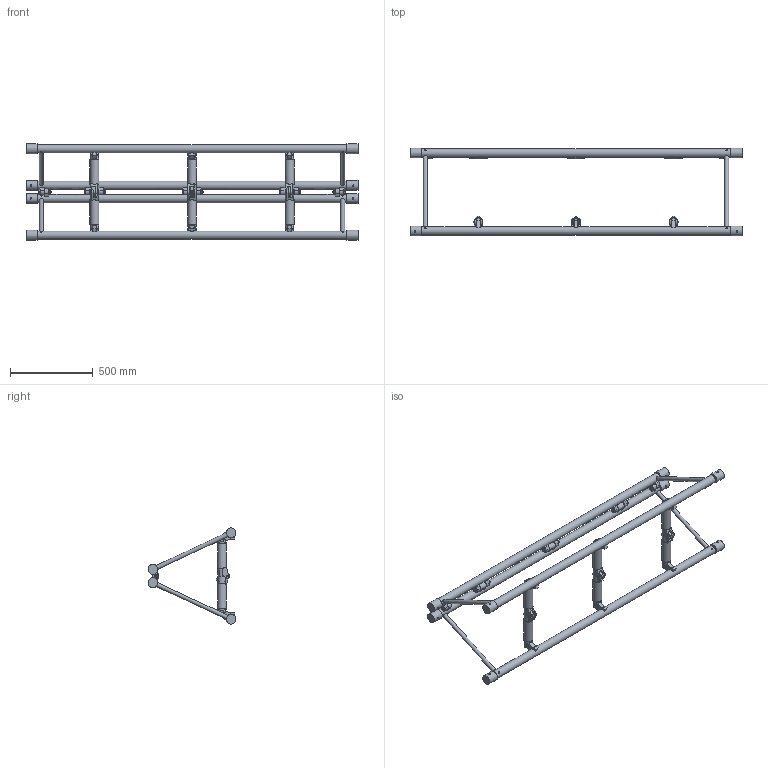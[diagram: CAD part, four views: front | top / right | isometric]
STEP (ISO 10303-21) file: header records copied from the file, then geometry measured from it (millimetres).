
FILE_DESCRIPTION(/* description */ (''),/* implementation_level */ '2;1');
FILE_NAME(/* name */ 'M:\Symbolen_NIEUW\STP\52-er truss\S52F\S52F-L200_111110087.stp',/* time_stamp */ '2017-11-10T14:31:29+01:00',/* author */ ('Kees'),/* organization */ (''),/* preprocessor_version */ 'ST-DEVELOPER v16.13',/* originating_system */ 'Autodesk Inventor 2018',/* authorisation */ '');
FILE_SCHEMA (('AUTOMOTIVE_DESIGN { 1 0 10303 214 3 1 1 }'));
Length unit declared in the file: millimetre
Products named in the file (1): 160001654
Bounding box: 2000 x 528.69 x 578.8 mm (x, y, z)
Volume: 20724168.3 mm3; surface area: 1965685.7 mm2
Topology: 12 solids, 12 shells, 890 faces, 2258 edges, 1481 vertices
Faces by surface type: plane 578, cylinder 225, cone 87
Full cylindrical faces by diameter (mm): 10 x8, 12 x22, 12.5 x13, 12.8 x12, 13 x20, 17.4 x10, 24 x8, 25 x4, 50 x10, 54 x6, 58.8 x8
Entity records: 28006 total; most frequent: CARTESIAN_POINT 6386, DIRECTION 4277, ORIENTED_EDGE 4110, EDGE_CURVE 2055, AXIS2_PLACEMENT_3D 1579, VERTEX_POINT 1460, EDGE_LOOP 1271, LINE 1119
